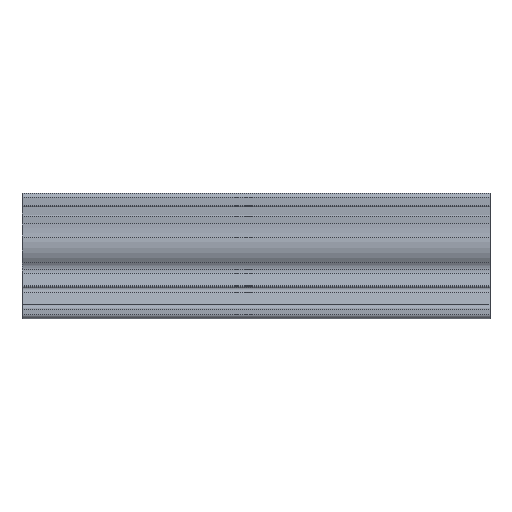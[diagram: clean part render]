
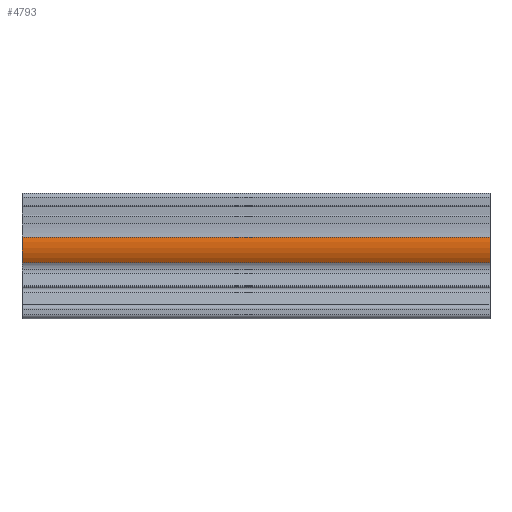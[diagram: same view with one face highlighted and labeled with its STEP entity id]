
A CAD part, top view. The second image highlights one B-rep face of the part: STEP entity #4793.
In plain terms, the highlighted cylindrical face has radius 16 mm (diameter 32 mm), a partial arc.
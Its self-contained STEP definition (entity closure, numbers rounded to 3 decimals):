
#35 = CARTESIAN_POINT ( 'NONE',  ( -88., 21.207, -16.633 ) ) ;
#275 = VERTEX_POINT ( 'NONE', #35 ) ;
#341 = AXIS2_PLACEMENT_3D ( 'NONE', #1047, #2143, #7126 ) ;
#383 = DIRECTION ( 'NONE',  ( 0., 1., 0. ) ) ;
#533 = ORIENTED_EDGE ( 'NONE', *, *, #3894, .T. ) ;
#998 = CARTESIAN_POINT ( 'NONE',  ( 132., 21.207, -16.633 ) ) ;
#1047 = CARTESIAN_POINT ( 'NONE',  ( 44., 30., -30. ) ) ;
#1252 = DIRECTION ( 'NONE',  ( 1., 0., 0. ) ) ;
#1347 = ORIENTED_EDGE ( 'NONE', *, *, #3206, .T. ) ;
#1627 = CYLINDRICAL_SURFACE ( 'NONE', #341, 16. ) ;
#1717 = CIRCLE ( 'NONE', #5760, 16. ) ;
#2047 = AXIS2_PLACEMENT_3D ( 'NONE', #4564, #1252, #5118 ) ;
#2143 = DIRECTION ( 'NONE',  ( 1., 0., 0. ) ) ;
#2150 = LINE ( 'NONE', #2539, #3617 ) ;
#2322 = CARTESIAN_POINT ( 'NONE',  ( 44., 33.318, -14.348 ) ) ;
#2422 = CARTESIAN_POINT ( 'NONE',  ( -88., 33.318, -14.348 ) ) ;
#2539 = CARTESIAN_POINT ( 'NONE',  ( 44., 21.207, -16.633 ) ) ;
#2877 = DIRECTION ( 'NONE',  ( -1., 0., 0. ) ) ;
#3003 = CIRCLE ( 'NONE', #2047, 16. ) ;
#3206 = EDGE_CURVE ( 'NONE', #275, #3470, #2150, .T. ) ;
#3268 = FACE_OUTER_BOUND ( 'NONE', #5990, .T. ) ;
#3413 = CARTESIAN_POINT ( 'NONE',  ( 132., 33.318, -14.348 ) ) ;
#3470 = VERTEX_POINT ( 'NONE', #998 ) ;
#3617 = VECTOR ( 'NONE', #6405, 1000. ) ;
#3681 = DIRECTION ( 'NONE',  ( 1., 0., 0. ) ) ;
#3894 = EDGE_CURVE ( 'NONE', #6511, #275, #1717, .T. ) ;
#4564 = CARTESIAN_POINT ( 'NONE',  ( 132., 30., -30. ) ) ;
#4793 = ADVANCED_FACE ( 'NONE', ( #3268 ), #1627, .T. ) ;
#5118 = DIRECTION ( 'NONE',  ( 0., 0., 1. ) ) ;
#5390 = EDGE_CURVE ( 'NONE', #5571, #3470, #3003, .T. ) ;
#5477 = ORIENTED_EDGE ( 'NONE', *, *, #5390, .F. ) ;
#5524 = VECTOR ( 'NONE', #2877, 1000. ) ;
#5571 = VERTEX_POINT ( 'NONE', #3413 ) ;
#5760 = AXIS2_PLACEMENT_3D ( 'NONE', #7002, #3681, #383 ) ;
#5990 = EDGE_LOOP ( 'NONE', ( #6759, #533, #1347, #5477 ) ) ;
#6270 = EDGE_CURVE ( 'NONE', #5571, #6511, #6988, .T. ) ;
#6405 = DIRECTION ( 'NONE',  ( 1., 0., 0. ) ) ;
#6511 = VERTEX_POINT ( 'NONE', #2422 ) ;
#6759 = ORIENTED_EDGE ( 'NONE', *, *, #6270, .T. ) ;
#6988 = LINE ( 'NONE', #2322, #5524 ) ;
#7002 = CARTESIAN_POINT ( 'NONE',  ( -88., 30., -30. ) ) ;
#7126 = DIRECTION ( 'NONE',  ( 0., 1., 0. ) ) ;
